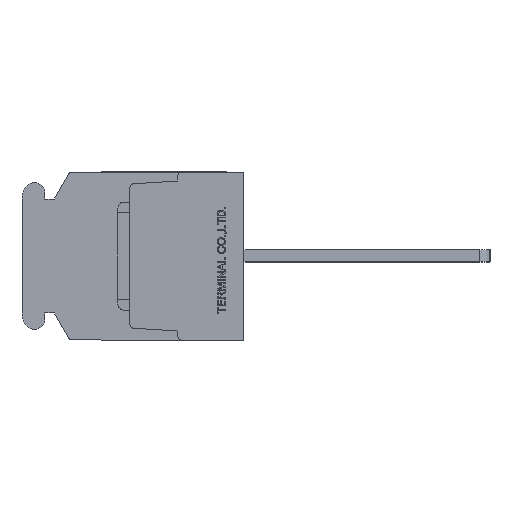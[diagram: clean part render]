
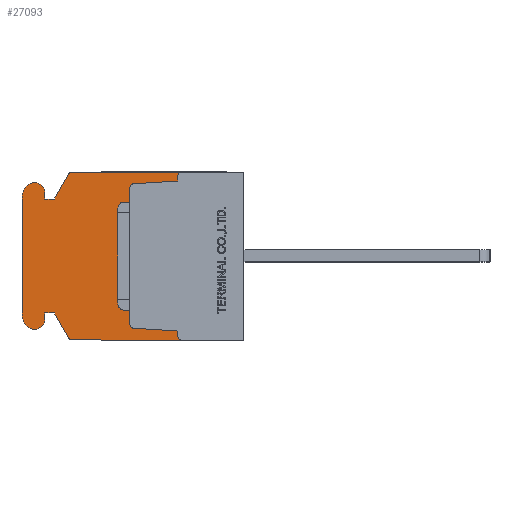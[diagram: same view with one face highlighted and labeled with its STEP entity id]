
A CAD part, left-side view. The second image highlights one B-rep face of the part: STEP entity #27093.
In plain terms, the highlighted planar face has unit normal (-1, 0, 0).
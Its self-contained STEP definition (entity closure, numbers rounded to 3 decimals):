
#510=CIRCLE('',#27506,0.3);
#511=CIRCLE('',#27510,0.3);
#512=CIRCLE('',#27512,0.3);
#513=CIRCLE('',#27516,0.3);
#1066=CIRCLE('',#29143,0.3);
#1067=CIRCLE('',#29144,0.8);
#1068=CIRCLE('',#29145,1.);
#1069=CIRCLE('',#29146,2.);
#1070=CIRCLE('',#29147,2.);
#1071=CIRCLE('',#29148,1.);
#1072=CIRCLE('',#29149,0.8);
#1073=CIRCLE('',#29150,0.3);
#1467=VERTEX_POINT('',#35404);
#1468=VERTEX_POINT('',#35405);
#1821=VERTEX_POINT('',#36926);
#1822=VERTEX_POINT('',#36930);
#1823=VERTEX_POINT('',#36934);
#1824=VERTEX_POINT('',#36938);
#1825=VERTEX_POINT('',#36942);
#1826=VERTEX_POINT('',#36943);
#1827=VERTEX_POINT('',#36948);
#1828=VERTEX_POINT('',#36952);
#3354=VERTEX_POINT('',#41632);
#3389=VERTEX_POINT('',#41739);
#3801=VERTEX_POINT('',#43030);
#3802=VERTEX_POINT('',#43032);
#3803=VERTEX_POINT('',#43034);
#3804=VERTEX_POINT('',#43036);
#3805=VERTEX_POINT('',#43038);
#3806=VERTEX_POINT('',#43040);
#3807=VERTEX_POINT('',#43042);
#3808=VERTEX_POINT('',#43044);
#3809=VERTEX_POINT('',#43046);
#3810=VERTEX_POINT('',#43048);
#3811=VERTEX_POINT('',#43050);
#3812=VERTEX_POINT('',#43052);
#3813=VERTEX_POINT('',#43054);
#3814=VERTEX_POINT('',#43056);
#3815=VERTEX_POINT('',#43058);
#3816=VERTEX_POINT('',#43060);
#4212=VECTOR('',#29404,1.);
#4621=VECTOR('',#29960,1.);
#4623=VECTOR('',#29963,1.);
#4628=VECTOR('',#29977,1.);
#4630=VECTOR('',#29980,1.);
#6191=VECTOR('',#33562,1.);
#6228=VECTOR('',#33657,1.);
#6747=VECTOR('',#34600,1.);
#6748=VECTOR('',#34601,1.);
#6749=VECTOR('',#34602,1.);
#6750=VECTOR('',#34605,1.);
#6751=VECTOR('',#34610,1.);
#6752=VECTOR('',#34615,1.);
#6753=VECTOR('',#34618,1.);
#6754=VECTOR('',#34619,1.);
#6755=VECTOR('',#34620,1.);
#7205=LINE('',#35403,#4212);
#7614=LINE('',#36929,#4621);
#7616=LINE('',#36933,#4623);
#7621=LINE('',#36947,#4628);
#7623=LINE('',#36951,#4630);
#9184=LINE('',#41633,#6191);
#9221=LINE('',#41738,#6228);
#9740=LINE('',#43031,#6747);
#9741=LINE('',#43033,#6748);
#9742=LINE('',#43035,#6749);
#9743=LINE('',#43039,#6750);
#9744=LINE('',#43045,#6751);
#9745=LINE('',#43051,#6752);
#9746=LINE('',#43055,#6753);
#9747=LINE('',#43057,#6754);
#9748=LINE('',#43059,#6755);
#10198=EDGE_CURVE('',#1467,#1468,#7205,.T.);
#10716=EDGE_CURVE('',#1821,#1467,#510,.T.);
#10718=EDGE_CURVE('',#1822,#1821,#7614,.T.);
#10720=EDGE_CURVE('',#1823,#1822,#7616,.T.);
#10722=EDGE_CURVE('',#1824,#1823,#511,.T.);
#10724=EDGE_CURVE('',#1825,#1826,#512,.T.);
#10727=EDGE_CURVE('',#1827,#1825,#7621,.T.);
#10729=EDGE_CURVE('',#1828,#1827,#7623,.T.);
#10731=EDGE_CURVE('',#1468,#1828,#513,.T.);
#12944=EDGE_CURVE('',#3354,#1826,#9184,.T.);
#12997=EDGE_CURVE('',#1824,#3389,#9221,.T.);
#13710=EDGE_CURVE('',#3801,#3354,#1066,.T.);
#13711=EDGE_CURVE('',#3802,#3801,#9740,.T.);
#13712=EDGE_CURVE('',#3803,#3802,#9741,.T.);
#13713=EDGE_CURVE('',#3804,#3803,#9742,.T.);
#13714=EDGE_CURVE('',#3805,#3804,#1067,.T.);
#13715=EDGE_CURVE('',#3806,#3805,#9743,.T.);
#13716=EDGE_CURVE('',#3807,#3806,#1068,.T.);
#13717=EDGE_CURVE('',#3808,#3807,#1069,.T.);
#13718=EDGE_CURVE('',#3809,#3808,#9744,.T.);
#13719=EDGE_CURVE('',#3810,#3809,#1070,.T.);
#13720=EDGE_CURVE('',#3811,#3810,#1071,.T.);
#13721=EDGE_CURVE('',#3812,#3811,#9745,.T.);
#13722=EDGE_CURVE('',#3813,#3812,#1072,.T.);
#13723=EDGE_CURVE('',#3814,#3813,#9746,.T.);
#13724=EDGE_CURVE('',#3815,#3814,#9747,.T.);
#13725=EDGE_CURVE('',#3816,#3815,#9748,.T.);
#13726=EDGE_CURVE('',#3389,#3816,#1073,.T.);
#21298=ORIENTED_EDGE('',*,*,#10724,.T.);
#21299=ORIENTED_EDGE('',*,*,#12944,.F.);
#21300=ORIENTED_EDGE('',*,*,#13710,.F.);
#21301=ORIENTED_EDGE('',*,*,#13711,.F.);
#21302=ORIENTED_EDGE('',*,*,#13712,.F.);
#21303=ORIENTED_EDGE('',*,*,#13713,.F.);
#21304=ORIENTED_EDGE('',*,*,#13714,.F.);
#21305=ORIENTED_EDGE('',*,*,#13715,.F.);
#21306=ORIENTED_EDGE('',*,*,#13716,.F.);
#21307=ORIENTED_EDGE('',*,*,#13717,.F.);
#21308=ORIENTED_EDGE('',*,*,#13718,.F.);
#21309=ORIENTED_EDGE('',*,*,#13719,.F.);
#21310=ORIENTED_EDGE('',*,*,#13720,.F.);
#21311=ORIENTED_EDGE('',*,*,#13721,.F.);
#21312=ORIENTED_EDGE('',*,*,#13722,.F.);
#21313=ORIENTED_EDGE('',*,*,#13723,.F.);
#21314=ORIENTED_EDGE('',*,*,#13724,.F.);
#21315=ORIENTED_EDGE('',*,*,#13725,.F.);
#21316=ORIENTED_EDGE('',*,*,#13726,.F.);
#21317=ORIENTED_EDGE('',*,*,#12997,.F.);
#21318=ORIENTED_EDGE('',*,*,#10722,.T.);
#21319=ORIENTED_EDGE('',*,*,#10720,.T.);
#21320=ORIENTED_EDGE('',*,*,#10718,.T.);
#21321=ORIENTED_EDGE('',*,*,#10716,.T.);
#21322=ORIENTED_EDGE('',*,*,#10198,.T.);
#21323=ORIENTED_EDGE('',*,*,#10731,.T.);
#21324=ORIENTED_EDGE('',*,*,#10729,.T.);
#21325=ORIENTED_EDGE('',*,*,#10727,.T.);
#23919=EDGE_LOOP('',(#21298,#21299,#21300,#21301,#21302,#21303,#21304,#21305,
#21306,#21307,#21308,#21309,#21310,#21311,#21312,#21313,#21314,#21315,#21316,
#21317,#21318,#21319,#21320,#21321,#21322,#21323,#21324,#21325));
#25565=FACE_BOUND('',#23919,.T.);
#27093=ADVANCED_FACE('',(#25565),#45651,.F.);
#27506=AXIS2_PLACEMENT_3D('',#36925,#29956,#29957);
#27510=AXIS2_PLACEMENT_3D('',#36937,#29967,#29968);
#27512=AXIS2_PLACEMENT_3D('',#36941,#29972,#29973);
#27516=AXIS2_PLACEMENT_3D('',#36955,#29984,#29985);
#29142=AXIS2_PLACEMENT_3D('',#43028,#34597,$);
#29143=AXIS2_PLACEMENT_3D('',#43029,#34598,#34599);
#29144=AXIS2_PLACEMENT_3D('',#43037,#34603,#34604);
#29145=AXIS2_PLACEMENT_3D('',#43041,#34606,#34607);
#29146=AXIS2_PLACEMENT_3D('',#43043,#34608,#34609);
#29147=AXIS2_PLACEMENT_3D('',#43047,#34611,#34612);
#29148=AXIS2_PLACEMENT_3D('',#43049,#34613,#34614);
#29149=AXIS2_PLACEMENT_3D('',#43053,#34616,#34617);
#29150=AXIS2_PLACEMENT_3D('',#43061,#34621,#34622);
#29404=DIRECTION('',(0.,0.,1.));
#29956=DIRECTION('',(1.,0.,0.));
#29957=DIRECTION('',(0.,0.,-0.3));
#29960=DIRECTION('',(0.,0.998,0.062));
#29963=DIRECTION('',(0.,0.,1.));
#29967=DIRECTION('',(1.,0.,0.));
#29968=DIRECTION('',(0.,0.,-0.3));
#29972=DIRECTION('',(1.,0.,0.));
#29973=DIRECTION('',(0.,0.,-0.3));
#29977=DIRECTION('',(0.,0.,1.));
#29980=DIRECTION('',(0.,-0.998,0.062));
#29984=DIRECTION('',(1.,0.,0.));
#29985=DIRECTION('',(0.,0.,-0.3));
#33562=DIRECTION('',(0.,-1.,0.));
#33657=DIRECTION('',(0.,1.,0.));
#34597=DIRECTION('',(1.,0.,0.));
#34598=DIRECTION('',(1.,0.,0.));
#34599=DIRECTION('',(0.,0.,-0.3));
#34600=DIRECTION('',(0.,-0.5,0.866));
#34601=DIRECTION('',(0.,-1.,0.));
#34602=DIRECTION('',(0.,0.,-1.));
#34603=DIRECTION('',(1.,0.,0.));
#34604=DIRECTION('',(0.,0.,-0.8));
#34605=DIRECTION('',(0.,-1.,0.));
#34606=DIRECTION('',(1.,0.,0.));
#34607=DIRECTION('',(0.,0.,-1.));
#34608=DIRECTION('',(1.,0.,0.));
#34609=DIRECTION('',(0.,0.,-2.));
#34610=DIRECTION('',(0.,0.,1.));
#34611=DIRECTION('',(1.,0.,0.));
#34612=DIRECTION('',(0.,0.,-2.));
#34613=DIRECTION('',(1.,0.,0.));
#34614=DIRECTION('',(0.,0.,-1.));
#34615=DIRECTION('',(0.,1.,0.));
#34616=DIRECTION('',(1.,0.,0.));
#34617=DIRECTION('',(0.,0.,-0.8));
#34618=DIRECTION('',(0.,0.,-1.));
#34619=DIRECTION('',(0.,1.,0.));
#34620=DIRECTION('',(0.,0.5,0.866));
#34621=DIRECTION('',(1.,0.,0.));
#34622=DIRECTION('',(0.,0.,-0.3));
#35403=CARTESIAN_POINT('',(8.15,9.5,0.));
#35404=CARTESIAN_POINT('',(8.15,9.5,-5.718));
#35405=CARTESIAN_POINT('',(8.15,9.5,5.718));
#36925=CARTESIAN_POINT('',(8.15,9.2,-5.718));
#36926=CARTESIAN_POINT('',(8.15,9.219,-6.018));
#36929=CARTESIAN_POINT('',(8.15,8.522,-6.061));
#36930=CARTESIAN_POINT('',(8.15,5.5,-6.25));
#36933=CARTESIAN_POINT('',(8.15,5.5,-3.237));
#36934=CARTESIAN_POINT('',(8.15,5.5,-6.7));
#36937=CARTESIAN_POINT('',(8.15,5.2,-6.7));
#36938=CARTESIAN_POINT('',(8.15,5.2,-7.));
#36941=CARTESIAN_POINT('',(8.15,5.2,6.7));
#36942=CARTESIAN_POINT('',(8.15,5.5,6.7));
#36943=CARTESIAN_POINT('',(8.15,5.2,7.));
#36947=CARTESIAN_POINT('',(8.15,5.5,3.238));
#36948=CARTESIAN_POINT('',(8.15,5.5,6.25));
#36951=CARTESIAN_POINT('',(8.15,8.522,6.061));
#36952=CARTESIAN_POINT('',(8.15,9.219,6.018));
#36955=CARTESIAN_POINT('',(8.15,9.2,5.718));
#41632=CARTESIAN_POINT('',(8.15,14.327,7.));
#41633=CARTESIAN_POINT('',(8.15,14.327,7.));
#41738=CARTESIAN_POINT('',(8.15,0.,-7.));
#41739=CARTESIAN_POINT('',(8.15,14.327,-7.));
#43028=CARTESIAN_POINT('',(8.15,9.311,0.));
#43029=CARTESIAN_POINT('',(8.15,14.327,6.7));
#43030=CARTESIAN_POINT('',(8.15,14.587,6.85));
#43031=CARTESIAN_POINT('',(8.15,15.8,4.75));
#43032=CARTESIAN_POINT('',(8.15,15.8,4.75));
#43033=CARTESIAN_POINT('',(8.15,16.6,4.75));
#43034=CARTESIAN_POINT('',(8.15,16.6,4.75));
#43035=CARTESIAN_POINT('',(8.15,16.6,5.3));
#43036=CARTESIAN_POINT('',(8.15,16.6,5.3));
#43037=CARTESIAN_POINT('',(8.15,17.4,5.3));
#43038=CARTESIAN_POINT('',(8.15,17.4,6.1));
#43039=CARTESIAN_POINT('',(8.15,17.437,6.1));
#43040=CARTESIAN_POINT('',(8.15,17.437,6.1));
#43041=CARTESIAN_POINT('',(8.15,17.437,5.1));
#43042=CARTESIAN_POINT('',(8.15,18.373,5.45));
#43043=CARTESIAN_POINT('',(8.15,16.5,4.75));
#43044=CARTESIAN_POINT('',(8.15,18.5,4.75));
#43045=CARTESIAN_POINT('',(8.15,18.5,-4.75));
#43046=CARTESIAN_POINT('',(8.15,18.5,-4.75));
#43047=CARTESIAN_POINT('',(8.15,16.5,-4.75));
#43048=CARTESIAN_POINT('',(8.15,18.373,-5.45));
#43049=CARTESIAN_POINT('',(8.15,17.437,-5.1));
#43050=CARTESIAN_POINT('',(8.15,17.437,-6.1));
#43051=CARTESIAN_POINT('',(8.15,17.4,-6.1));
#43052=CARTESIAN_POINT('',(8.15,17.4,-6.1));
#43053=CARTESIAN_POINT('',(8.15,17.4,-5.3));
#43054=CARTESIAN_POINT('',(8.15,16.6,-5.3));
#43055=CARTESIAN_POINT('',(8.15,16.6,-4.75));
#43056=CARTESIAN_POINT('',(8.15,16.6,-4.75));
#43057=CARTESIAN_POINT('',(8.15,15.8,-4.75));
#43058=CARTESIAN_POINT('',(8.15,15.8,-4.75));
#43059=CARTESIAN_POINT('',(8.15,14.587,-6.85));
#43060=CARTESIAN_POINT('',(8.15,14.587,-6.85));
#43061=CARTESIAN_POINT('',(8.15,14.327,-6.7));
#45651=PLANE('',#29142);
